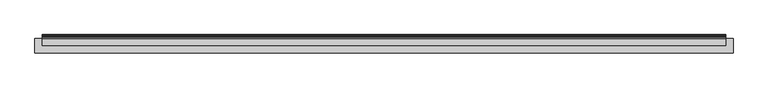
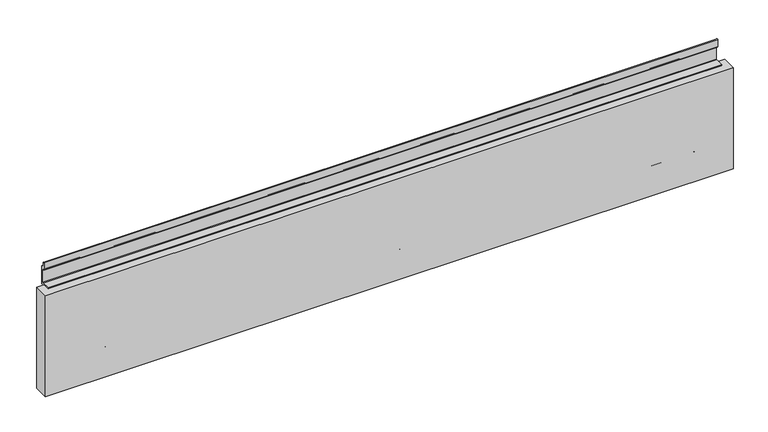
"""IFC4 building model written with IfcOpenShell, lengths in millimetres: furniture geometry, Geiger_GeigerOneCasegoods_WallTileAcceptsTileAboveFabric : RR Fabric 48Wx 1.25Dx 7.5H."""

from ifc_helpers import new_model, si_unit, point, frame, frame_2d, origin, origin_with_axes, place, context, project, spatial, polyline, circle_curve, trimmed, segment, composite_curve, outline, extrude, source, transform, mapped, element, save


def furniture_f9bced88(model_context):
    return source(origin(), model_context, "Body", "SweptSolid", [
        extrude(outline(composite_curve([segment(polyline([(-3.5052, 46.3366), (-2.6924, 45.5238), (-0.8128, 45.5238), (0.0, 44.7364), (0.0, 31.3197095)]), True, "CONTINUOUS"), segment(trimmed(circle_curve(frame_2d((-0.7973236, 31.3197095)), 0.7973236), [point((0.0, 31.3197095))], [point((-1.3611166, 30.7559166))], False, "CARTESIAN"), True, "CONTINUOUS"), segment(polyline([(-1.3611166, 30.7559166), (-2.8956, 32.2904), (-2.8956, 39.2246), (-3.7084, 40.012), (-5.6134, 40.012), (-6.4008, 40.8248), (-6.4008, 72.524), (-5.1054, 72.524), (-3.5052, 70.9238), (-3.5052, 46.3366)]), True, "CONTINUOUS")], self_intersect=False)), frame((50.0016, 0.0, 0.0), z_axis=(1.0, 0.0, 0.0), x_axis=(0.0, 1.0, 0.0)), (0.0, 0.0, 1.0), 75.9968),
        extrude(outline(composite_curve([segment(polyline([(-3.5052, 46.3366), (-2.6924, 45.5238), (-0.8128, 45.5238), (0.0, 44.7364), (0.0, 31.3197095)]), True, "CONTINUOUS"), segment(trimmed(circle_curve(frame_2d((-0.7973236, 31.3197095)), 0.7973236), [point((0.0, 31.3197095))], [point((-1.3611166, 30.7559166))], False, "CARTESIAN"), True, "CONTINUOUS"), segment(polyline([(-1.3611166, 30.7559166), (-2.8956, 32.2904), (-2.8956, 39.2246), (-3.7084, 40.012), (-5.6134, 40.012), (-6.4008, 40.8248), (-6.4008, 72.524), (-5.1054, 72.524), (-3.5052, 70.9238), (-3.5052, 46.3366)]), True, "CONTINUOUS")], self_intersect=False)), frame((571.6016, 0.0, 0.0), z_axis=(1.0, 0.0, 0.0), x_axis=(0.0, 1.0, 0.0)), (0.0, 0.0, 1.0), 75.9968),
        extrude(outline(composite_curve([segment(polyline([(-3.5052, 46.3366), (-2.6924, 45.5238), (-0.8128, 45.5238), (0.0, 44.7364), (0.0, 31.3197095)]), True, "CONTINUOUS"), segment(trimmed(circle_curve(frame_2d((-0.7973236, 31.3197095)), 0.7973236), [point((0.0, 31.3197095))], [point((-1.3611166, 30.7559166))], False, "CARTESIAN"), True, "CONTINUOUS"), segment(polyline([(-1.3611166, 30.7559166), (-2.8956, 32.2904), (-2.8956, 39.2246), (-3.7084, 40.012), (-5.6134, 40.012), (-6.4008, 40.8248), (-6.4008, 72.524), (-5.1054, 72.524), (-3.5052, 70.9238), (-3.5052, 46.3366)]), True, "CONTINUOUS")], self_intersect=False)), frame((571.6016, 0.0, 0.0), z_axis=(1.0, 0.0, 0.0), x_axis=(0.0, 1.0, 0.0)), (0.0, 0.0, 1.0), 75.9968),
        extrude(outline(polyline([(1219.2, -6.4008), (1219.2, -32.4008), (0.0, -32.4008), (0.0, -6.4008), (1219.2, -6.4008)])), origin_with_axes(), (0.0, 0.0, 1.0), 189.5),
        extrude(outline(composite_curve([segment(polyline([(-3.5052, 46.3366), (-2.6924, 45.5238), (-0.8128, 45.5238), (0.0, 44.7364), (0.0, 31.3197095)]), True, "CONTINUOUS"), segment(trimmed(circle_curve(frame_2d((-0.7973236, 31.3197095)), 0.7973236), [point((0.0, 31.3197095))], [point((-1.3611166, 30.7559166))], False, "CARTESIAN"), True, "CONTINUOUS"), segment(polyline([(-1.3611166, 30.7559166), (-2.8956, 32.2904), (-2.8956, 39.2246), (-3.7084, 40.012), (-5.6134, 40.012), (-6.4008, 40.8248), (-6.4008, 72.524), (-5.1054, 72.524), (-3.5052, 70.9238), (-3.5052, 46.3366)]), True, "CONTINUOUS")], self_intersect=False)), frame((1093.2, 0.0, 0.0), z_axis=(1.0, 0.0, 0.0), x_axis=(0.0, 1.0, 0.0)), (0.0, 0.0, 1.0), 76.0),
        extrude(outline(composite_curve([segment(polyline([(-3.5052, 229.7336), (-3.5052, 222.7994), (-2.7178, 222.012), (-0.8128, 222.012), (0.0, 221.1992), (0.0, 187.8998), (-2.6924, 187.8998), (-3.5052, 187.1124), (-3.5052, 173.3964), (-2.6924, 172.609), (0.0, 172.609), (0.0, 169.688), (-5.6134, 169.688), (-6.4008, 170.5008), (-6.4008, 189.5), (-18.9992, 189.5), (-18.9992, 191.1002), (-3.7084, 191.1002), (-2.8956, 191.8876), (-2.8956, 215.7128), (-3.7084, 216.5002), (-5.6134, 216.5002), (-6.4008, 217.313), (-6.4008, 230.7057925)]), True, "CONTINUOUS"), segment(trimmed(circle_curve(frame_2d((-5.6040985, 230.7057925)), 0.7967015), [point((-6.4008, 230.7057925))], [point((-5.0407455, 231.2691455))], False, "CARTESIAN"), True, "CONTINUOUS"), segment(polyline([(-5.0407455, 231.2691455), (-3.5052, 229.7336)]), True, "CONTINUOUS")], self_intersect=False)), frame((12.5, 0.0, 0.0), z_axis=(1.0, 0.0, 0.0), x_axis=(0.0, 1.0, 0.0)), (0.0, 0.0, 1.0), 1194.2),
    ])


if __name__ == "__main__":
    model = new_model("IFC4")
    model_context = context("Model", 3, world=origin())
    ifc_project = project(units=[si_unit("LENGTHUNIT", "METRE", prefix="MILLI")], contexts=[model_context])
    site = spatial("IfcSite", under=ifc_project)
    building = spatial("IfcBuilding", under=site)
    placement = place(None, origin())
    furniture_shape = furniture_f9bced88(model_context)
    element("IfcFurniture", 1, ObjectType="Geiger_GeigerOneCasegoods_WallTileAcceptsTileAboveFabric : RR Fabric 48Wx 1.25Dx 7.5H", at=placement, inside=building, context=model_context, shape_type="MappedRepresentation", body=[
        mapped(furniture_shape, transform((0.0, 0.0, 0.0), x_axis=(1.0, 0.0, 0.0), y_axis=(0.0, 1.0, 0.0), z_axis=(0.0, 0.0, 1.0))),
    ])
    save(model, "model.ifc")
